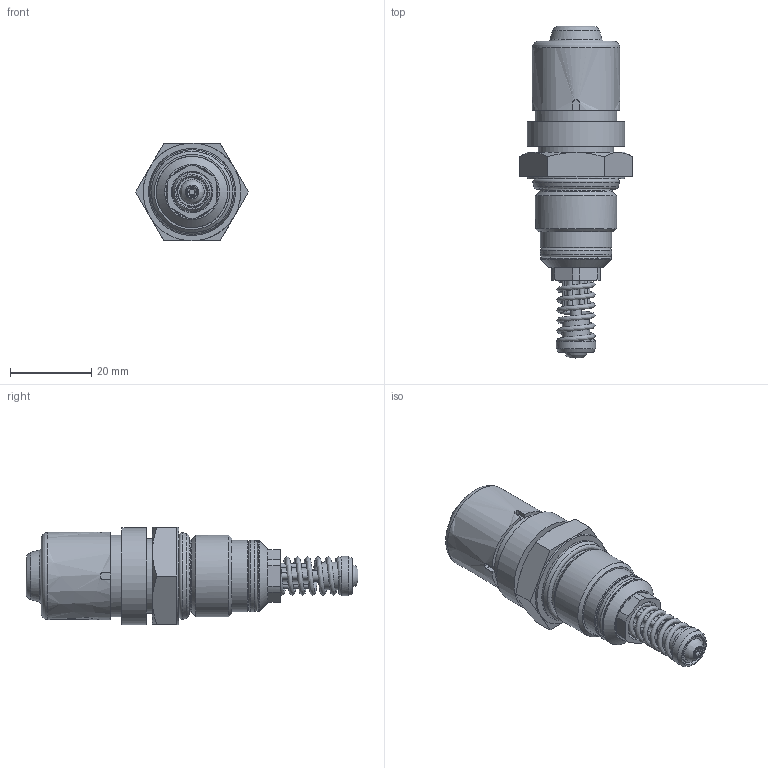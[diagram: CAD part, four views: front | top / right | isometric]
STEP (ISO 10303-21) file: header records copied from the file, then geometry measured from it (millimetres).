
FILE_DESCRIPTION((''),'2;1');
FILE_NAME('U:\Users\r.stiegele\28706101(330341).stp', '2015-07-24T07:18:21',('User'),('SDRC'),'I-DEAS Master Series 9','UNIX', 'Yes');
FILE_SCHEMA(('AUTOMOTIVE_DESIGN { 1 0 10303 214 1 1 1 1 }'));
Length unit declared in the file: millimetre
Products named in the file (1): 28706101(330341)
Bounding box: 27.71 x 81.65 x 24 mm (x, y, z)
Volume: 20923.2 mm3; surface area: 7344.9 mm2
Topology: 1 solids, 3 shells, 218 faces, 518 edges, 326 vertices
Faces by surface type: bspline 218
Entity records: 9009 total; most frequent: CARTESIAN_POINT 6006, ORIENTED_EDGE 1036, EDGE_CURVE 518, VERTEX_POINT 326, B_SPLINE_CURVE_WITH_KNOTS 244, EDGE_LOOP 244, FACE_OUTER_BOUND 218, ADVANCED_FACE 218
